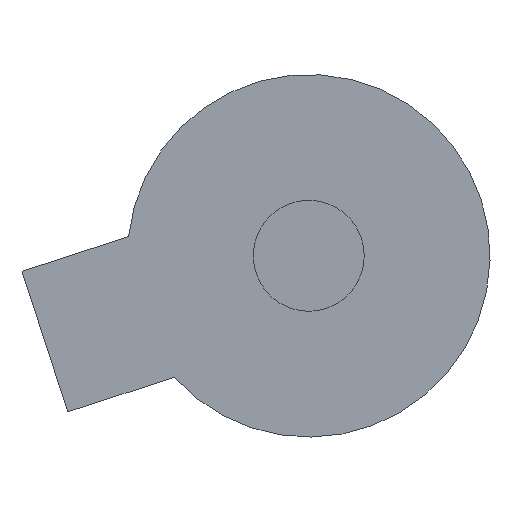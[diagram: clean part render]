
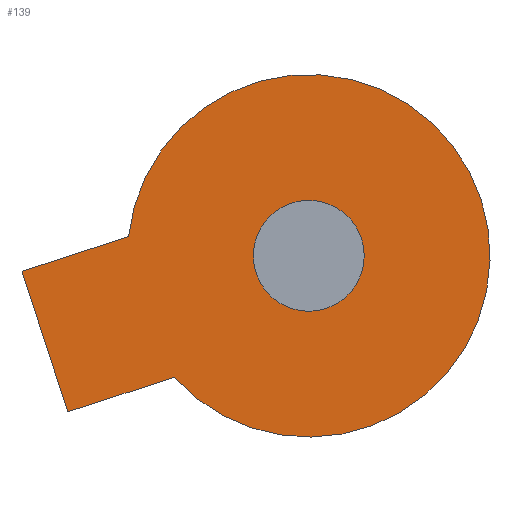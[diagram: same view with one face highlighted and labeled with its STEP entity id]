
A CAD part, front view. The second image highlights one B-rep face of the part: STEP entity #139.
In plain terms, the highlighted planar face has unit normal (0, -1, 0).
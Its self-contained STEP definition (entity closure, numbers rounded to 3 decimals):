
#21 = EDGE_CURVE('',#22,#24,#26,.T.);
#22 = VERTEX_POINT('',#23);
#23 = CARTESIAN_POINT('',(-9.745,-13.5,1.04));
#24 = VERTEX_POINT('',#25);
#25 = CARTESIAN_POINT('',(-7.273,-13.5,-6.569));
#26 = SURFACE_CURVE('',#27,(#32,#44),.PCURVE_S1.);
#27 = CIRCLE('',#28,9.8);
#28 = AXIS2_PLACEMENT_3D('',#29,#30,#31);
#29 = CARTESIAN_POINT('',(0.,-13.5,0.));
#30 = DIRECTION('',(0.,1.,-0.));
#31 = DIRECTION('',(-0.994,0.,0.106));
#32 = PCURVE('',#33,#38);
#33 = CYLINDRICAL_SURFACE('',#34,9.8);
#34 = AXIS2_PLACEMENT_3D('',#35,#36,#37);
#35 = CARTESIAN_POINT('',(0.,-13.5,0.));
#36 = DIRECTION('',(0.,-1.,-0.));
#37 = DIRECTION('',(1.,0.,0.));
#38 = DEFINITIONAL_REPRESENTATION('',(#39),#43);
#39 = LINE('',#40,#41);
#40 = CARTESIAN_POINT('',(-3.248,0.));
#41 = VECTOR('',#42,1.);
#42 = DIRECTION('',(-1.,0.));
#43 = ( GEOMETRIC_REPRESENTATION_CONTEXT(2) 
PARAMETRIC_REPRESENTATION_CONTEXT() REPRESENTATION_CONTEXT('2D SPACE',''
  ) );
#44 = PCURVE('',#45,#50);
#45 = PLANE('',#46);
#46 = AXIS2_PLACEMENT_3D('',#47,#48,#49);
#47 = CARTESIAN_POINT('',(0.,-13.5,0.)
  );
#48 = DIRECTION('',(0.,1.,0.));
#49 = DIRECTION('',(0.,-0.,1.));
#50 = DEFINITIONAL_REPRESENTATION('',(#51),#55);
#51 = CIRCLE('',#52,9.8);
#52 = AXIS2_PLACEMENT_2D('',#53,#54);
#53 = CARTESIAN_POINT('',(0.,0.));
#54 = DIRECTION('',(0.106,-0.994));
#55 = ( GEOMETRIC_REPRESENTATION_CONTEXT(2) 
PARAMETRIC_REPRESENTATION_CONTEXT() REPRESENTATION_CONTEXT('2D SPACE',''
  ) );
#72 = PLANE('',#73);
#73 = AXIS2_PLACEMENT_3D('',#74,#75,#76);
#74 = CARTESIAN_POINT('',(-9.605,-13.5,1.085));
#75 = DIRECTION('',(0.309,0.,-0.951));
#76 = DIRECTION('',(-0.951,0.,-0.309));
#129 = PLANE('',#130);
#130 = AXIS2_PLACEMENT_3D('',#131,#132,#133);
#131 = CARTESIAN_POINT('',(-7.133,-13.5,-6.524));
#132 = DIRECTION('',(0.309,0.,-0.951));
#133 = DIRECTION('',(-0.951,0.,-0.309));
#139 = ADVANCED_FACE('',(#140,#215),#45,.F.);
#140 = FACE_BOUND('',#141,.F.);
#141 = EDGE_LOOP('',(#142,#143,#166,#194));
#142 = ORIENTED_EDGE('',*,*,#21,.T.);
#143 = ORIENTED_EDGE('',*,*,#144,.T.);
#144 = EDGE_CURVE('',#24,#145,#147,.T.);
#145 = VERTEX_POINT('',#146);
#146 = CARTESIAN_POINT('',(-13.03,-13.5,-8.439));
#147 = SURFACE_CURVE('',#148,(#152,#159),.PCURVE_S1.);
#148 = LINE('',#149,#150);
#149 = CARTESIAN_POINT('',(-7.133,-13.5,-6.524));
#150 = VECTOR('',#151,1.);
#151 = DIRECTION('',(-0.951,0.,-0.309));
#152 = PCURVE('',#45,#153);
#153 = DEFINITIONAL_REPRESENTATION('',(#154),#158);
#154 = LINE('',#155,#156);
#155 = CARTESIAN_POINT('',(-6.524,-7.133));
#156 = VECTOR('',#157,1.);
#157 = DIRECTION('',(-0.309,-0.951));
#158 = ( GEOMETRIC_REPRESENTATION_CONTEXT(2) 
PARAMETRIC_REPRESENTATION_CONTEXT() REPRESENTATION_CONTEXT('2D SPACE',''
  ) );
#159 = PCURVE('',#129,#160);
#160 = DEFINITIONAL_REPRESENTATION('',(#161),#165);
#161 = LINE('',#162,#163);
#162 = CARTESIAN_POINT('',(0.,0.));
#163 = VECTOR('',#164,1.);
#164 = DIRECTION('',(1.,0.));
#165 = ( GEOMETRIC_REPRESENTATION_CONTEXT(2) 
PARAMETRIC_REPRESENTATION_CONTEXT() REPRESENTATION_CONTEXT('2D SPACE',''
  ) );
#166 = ORIENTED_EDGE('',*,*,#167,.F.);
#167 = EDGE_CURVE('',#168,#145,#170,.T.);
#168 = VERTEX_POINT('',#169);
#169 = CARTESIAN_POINT('',(-15.502,-13.5,-0.831));
#170 = SURFACE_CURVE('',#171,(#175,#182),.PCURVE_S1.);
#171 = LINE('',#172,#173);
#172 = CARTESIAN_POINT('',(-15.502,-13.5,-0.831));
#173 = VECTOR('',#174,1.);
#174 = DIRECTION('',(0.309,0.,-0.951));
#175 = PCURVE('',#45,#176);
#176 = DEFINITIONAL_REPRESENTATION('',(#177),#181);
#177 = LINE('',#178,#179);
#178 = CARTESIAN_POINT('',(-0.831,-15.502));
#179 = VECTOR('',#180,1.);
#180 = DIRECTION('',(-0.951,0.309));
#181 = ( GEOMETRIC_REPRESENTATION_CONTEXT(2) 
PARAMETRIC_REPRESENTATION_CONTEXT() REPRESENTATION_CONTEXT('2D SPACE',''
  ) );
#182 = PCURVE('',#183,#188);
#183 = PLANE('',#184);
#184 = AXIS2_PLACEMENT_3D('',#185,#186,#187);
#185 = CARTESIAN_POINT('',(-15.502,-13.5,-0.831));
#186 = DIRECTION('',(-0.951,0.,-0.309));
#187 = DIRECTION('',(0.309,0.,-0.951));
#188 = DEFINITIONAL_REPRESENTATION('',(#189),#193);
#189 = LINE('',#190,#191);
#190 = CARTESIAN_POINT('',(0.,0.));
#191 = VECTOR('',#192,1.);
#192 = DIRECTION('',(1.,0.));
#193 = ( GEOMETRIC_REPRESENTATION_CONTEXT(2) 
PARAMETRIC_REPRESENTATION_CONTEXT() REPRESENTATION_CONTEXT('2D SPACE',''
  ) );
#194 = ORIENTED_EDGE('',*,*,#195,.F.);
#195 = EDGE_CURVE('',#22,#168,#196,.T.);
#196 = SURFACE_CURVE('',#197,(#201,#208),.PCURVE_S1.);
#197 = LINE('',#198,#199);
#198 = CARTESIAN_POINT('',(-9.605,-13.5,1.085));
#199 = VECTOR('',#200,1.);
#200 = DIRECTION('',(-0.951,0.,-0.309));
#201 = PCURVE('',#45,#202);
#202 = DEFINITIONAL_REPRESENTATION('',(#203),#207);
#203 = LINE('',#204,#205);
#204 = CARTESIAN_POINT('',(1.085,-9.605));
#205 = VECTOR('',#206,1.);
#206 = DIRECTION('',(-0.309,-0.951));
#207 = ( GEOMETRIC_REPRESENTATION_CONTEXT(2) 
PARAMETRIC_REPRESENTATION_CONTEXT() REPRESENTATION_CONTEXT('2D SPACE',''
  ) );
#208 = PCURVE('',#72,#209);
#209 = DEFINITIONAL_REPRESENTATION('',(#210),#214);
#210 = LINE('',#211,#212);
#211 = CARTESIAN_POINT('',(0.,0.));
#212 = VECTOR('',#213,1.);
#213 = DIRECTION('',(1.,0.));
#214 = ( GEOMETRIC_REPRESENTATION_CONTEXT(2) 
PARAMETRIC_REPRESENTATION_CONTEXT() REPRESENTATION_CONTEXT('2D SPACE',''
  ) );
#215 = FACE_BOUND('',#216,.F.);
#216 = EDGE_LOOP('',(#217));
#217 = ORIENTED_EDGE('',*,*,#218,.T.);
#218 = EDGE_CURVE('',#219,#219,#221,.T.);
#219 = VERTEX_POINT('',#220);
#220 = CARTESIAN_POINT('',(3.,-13.5,0.));
#221 = SURFACE_CURVE('',#222,(#227,#238),.PCURVE_S1.);
#222 = CIRCLE('',#223,3.);
#223 = AXIS2_PLACEMENT_3D('',#224,#225,#226);
#224 = CARTESIAN_POINT('',(0.,-13.5,0.));
#225 = DIRECTION('',(0.,-1.,-0.));
#226 = DIRECTION('',(1.,0.,0.));
#227 = PCURVE('',#45,#228);
#228 = DEFINITIONAL_REPRESENTATION('',(#229),#237);
#229 = ( BOUNDED_CURVE() B_SPLINE_CURVE(2,(#230,#231,#232,#233,#234,#235
,#236),.UNSPECIFIED.,.T.,.F.) B_SPLINE_CURVE_WITH_KNOTS((1,2,2,2,2,1),(
    -2.094,0.,2.094,4.189,6.283,
8.378),.UNSPECIFIED.) CURVE() GEOMETRIC_REPRESENTATION_ITEM() 
RATIONAL_B_SPLINE_CURVE((1.,0.5,1.,0.5,1.,0.5,1.)) REPRESENTATION_ITEM(
  '') );
#230 = CARTESIAN_POINT('',(0.,3.));
#231 = CARTESIAN_POINT('',(5.196,3.));
#232 = CARTESIAN_POINT('',(2.598,-1.5));
#233 = CARTESIAN_POINT('',(0.,-6.));
#234 = CARTESIAN_POINT('',(-2.598,-1.5));
#235 = CARTESIAN_POINT('',(-5.196,3.));
#236 = CARTESIAN_POINT('',(0.,3.));
#237 = ( GEOMETRIC_REPRESENTATION_CONTEXT(2) 
PARAMETRIC_REPRESENTATION_CONTEXT() REPRESENTATION_CONTEXT('2D SPACE',''
  ) );
#238 = PCURVE('',#239,#244);
#239 = CYLINDRICAL_SURFACE('',#240,3.);
#240 = AXIS2_PLACEMENT_3D('',#241,#242,#243);
#241 = CARTESIAN_POINT('',(0.,-34.,0.));
#242 = DIRECTION('',(0.,-1.,-0.));
#243 = DIRECTION('',(1.,0.,0.));
#244 = DEFINITIONAL_REPRESENTATION('',(#245),#249);
#245 = LINE('',#246,#247);
#246 = CARTESIAN_POINT('',(-6.283,-20.5));
#247 = VECTOR('',#248,1.);
#248 = DIRECTION('',(1.,-0.));
#249 = ( GEOMETRIC_REPRESENTATION_CONTEXT(2) 
PARAMETRIC_REPRESENTATION_CONTEXT() REPRESENTATION_CONTEXT('2D SPACE',''
  ) );
